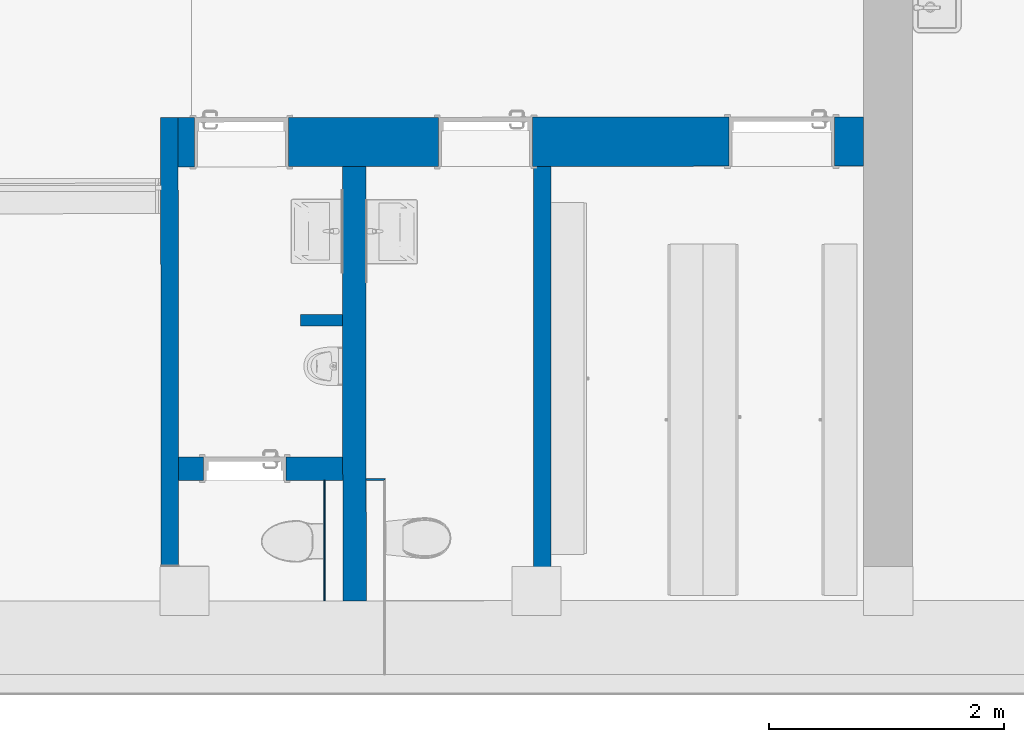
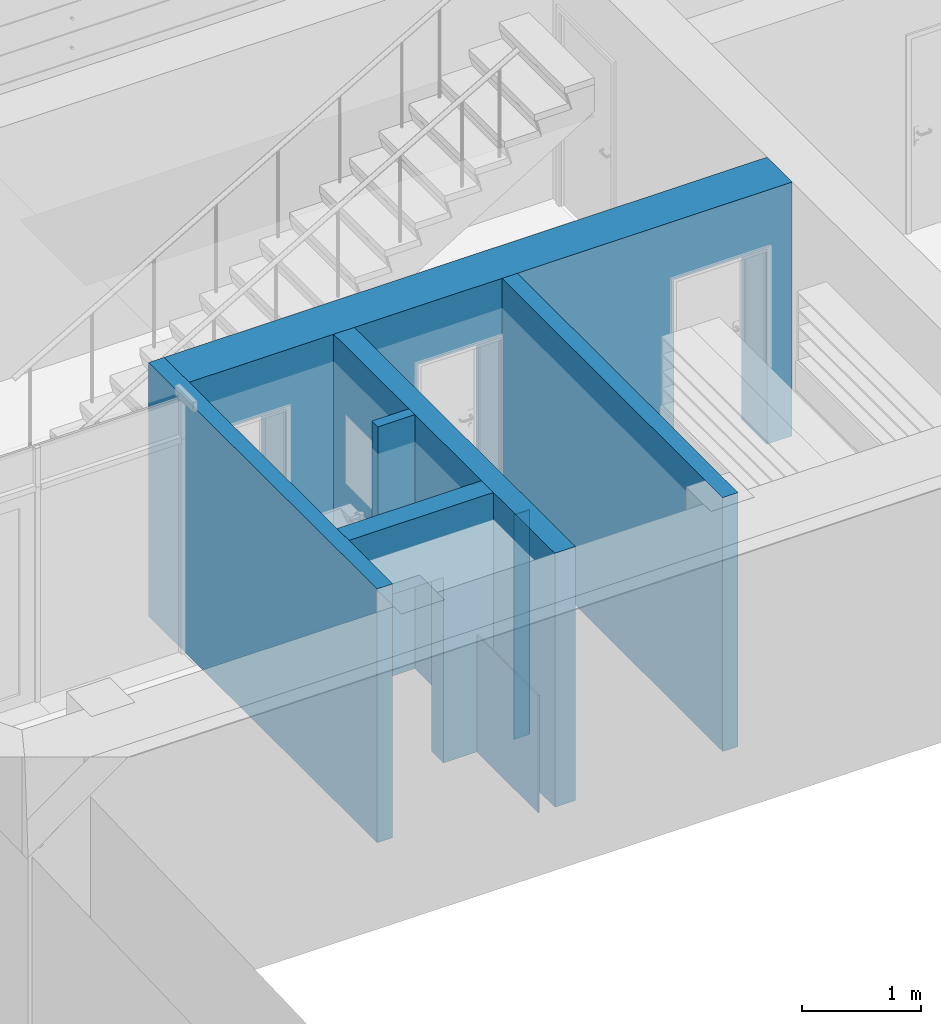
# One storey, part 2 of 127: 8 walls, 4 openings.
"""IFC2X3 building model written with IfcOpenShell, lengths in millimetres."""

import ifcopenshell
import ifcopenshell.guid

model = None  # the IFC model being written
_history = None  # IfcOwnerHistory: only IFC2X3 demands one
_inside = {}  # id of a spatial element -> (the spatial element, [elements in it])
_under = {}  # id of a project, library or spatial element -> (it, [spatial elements below it])
_declared = {}  # id of a project -> (the project, [libraries it declares])
_typed = {}  # id of a type object -> (the type object, [elements of that type])
_made_of = {}  # id of a material, layer set ... -> (it, [elements and type objects made of it])


def new_model(schema):
    """Start an empty IFC model of exactly this schema.

    Asked for "IFC4X3", IfcOpenShell would pick the latest addendum, in which some entities
    have other attributes; the version numbers below select the first issue.
    IFC2X3 requires an IfcOwnerHistory on every rooted entity: one is made here for all.
    """
    global model, _history
    if schema == "IFC4X3":
        model = ifcopenshell.file(schema_version=(4, 3, 0, 0))
    else:
        model = ifcopenshell.file(schema=schema)
    _inside.clear()
    _under.clear()
    _declared.clear()
    _typed.clear()
    _made_of.clear()
    _history = None
    if model.schema == "IFC2X3":
        org = make("IfcOrganization", Name="unknown")
        user = make(
            "IfcPersonAndOrganization",
            ThePerson=make("IfcPerson", FamilyName="unknown"),
            TheOrganization=org,
        )
        app = make(
            "IfcApplication",
            ApplicationDeveloper=org,
            Version="unknown",
            ApplicationFullName="unknown",
            ApplicationIdentifier="unknown",
        )
        _history = make(
            "IfcOwnerHistory",
            OwningUser=user,
            OwningApplication=app,
            ChangeAction="ADDED",
            CreationDate=0,
        )
    return model


def make(cls, **values):
    """One entity of the class cls with the attributes given. An attribute that is None is left unset."""
    return model.create_entity(
        cls, **{name: value for name, value in values.items() if value is not None}
    )


def entity(cls, *values):
    """Any entity or typed value of the class cls, its attributes in the order of the schema. None: left unset."""
    e = model.create_entity(cls)
    for i, value in enumerate(values):
        if value is not None:
            e[i] = value
    return e


def rooted(cls, **values):
    """An entity with a GlobalId (a new one), such as an element, a storey or a relation."""
    return make(cls, GlobalId=ifcopenshell.guid.new(), OwnerHistory=_history, **values)


def si_unit(unit_type, name, prefix=None):
    """IfcSIUnit, for example si_unit("LENGTHUNIT", "METRE", prefix="MILLI")."""
    return make("IfcSIUnit", UnitType=unit_type, Prefix=prefix, Name=name)


def converted_unit(unit_type, name, factor, base, dimensions=None, offset=None):
    """IfcConversionBasedUnit, such as the inch: factor (a typed value) times the base unit."""
    return make(
        "IfcConversionBasedUnit"
        if offset is None
        else "IfcConversionBasedUnitWithOffset",
        ConversionOffset=offset,
        Dimensions=None
        if dimensions is None
        else entity("IfcDimensionalExponents", *dimensions),
        UnitType=unit_type,
        Name=name,
        ConversionFactor=make(
            "IfcMeasureWithUnit", ValueComponent=factor, UnitComponent=base
        ),
    )


def derived_unit(unit_type, elements):
    """IfcDerivedUnit: a product of units, each with its exponent."""
    return make(
        "IfcDerivedUnit",
        Elements=[
            make("IfcDerivedUnitElement", Unit=unit, Exponent=power)
            for unit, power in elements
        ],
        UnitType=unit_type,
    )


def money_unit(currency):
    """IfcMonetaryUnit."""
    return make("IfcMonetaryUnit", Currency=currency)


def assignment(units):
    """IfcUnitAssignment: the units of a project."""
    return None if units is None else make("IfcUnitAssignment", Units=units)


def point(xyz):
    """IfcCartesianPoint."""
    return None if xyz is None else make("IfcCartesianPoint", Coordinates=xyz)


def direction(xyz):
    """IfcDirection."""
    return None if xyz is None else make("IfcDirection", DirectionRatios=xyz)


def frame(location, z_axis=None, x_axis=None):
    """IfcAxis2Placement3D, a coordinate frame: its origin and axes. An axis left out is left unset."""
    return make(
        "IfcAxis2Placement3D",
        Location=point(location),
        Axis=direction(z_axis),
        RefDirection=direction(x_axis),
    )


def frame_2d(location, x_axis=None):
    """IfcAxis2Placement2D, a coordinate frame in the plane: its origin and x axis."""
    return make(
        "IfcAxis2Placement2D", Location=point(location), RefDirection=direction(x_axis)
    )


def origin_with_axes():
    """The frame at (0, 0, 0) with the z axis (0, 0, 1) and the x axis (1, 0, 0) written out."""
    return frame((0.0, 0.0, 0.0), z_axis=(0.0, 0.0, 1.0), x_axis=(1.0, 0.0, 0.0))


def origin_2d_with_axis():
    """The frame at (0, 0) in the plane with the x axis (1, 0) written out."""
    return frame_2d((0.0, 0.0), x_axis=(1.0, 0.0))


def place(relative_to, where):
    """IfcLocalPlacement: puts the frame where relative to a parent placement (None: the world)."""
    return make(
        "IfcLocalPlacement", PlacementRelTo=relative_to, RelativePlacement=where
    )


def context(
    kind, dimensions, precision=None, world=None, true_north=None, identifier=None
):
    """IfcGeometricRepresentationContext, for example the 3D "Model" context."""
    return make(
        "IfcGeometricRepresentationContext",
        ContextIdentifier=identifier,
        ContextType=kind,
        CoordinateSpaceDimension=dimensions,
        Precision=precision,
        WorldCoordinateSystem=world,
        TrueNorth=true_north,
    )


def subcontext(parent, identifier, kind, view, scale=None):
    """IfcGeometricRepresentationSubContext, for example "Body" below "Model"."""
    return make(
        "IfcGeometricRepresentationSubContext",
        ContextIdentifier=identifier,
        ContextType=kind,
        ParentContext=parent,
        TargetScale=scale,
        TargetView=view,
    )


def project(units=None, contexts=None):
    """IfcProject with its units and contexts."""
    return rooted(
        "IfcProject",
        Name="project",
        RepresentationContexts=contexts,
        UnitsInContext=assignment(units),
    )


def spatial(cls, under=None, at=None, **own):
    """A site, building, storey or space (cls), placed at a placement, below another one or the project."""
    s = rooted(cls, ObjectPlacement=at, **own)
    if under is not None:
        _under.setdefault(under.id(), (under, []))[1].append(s)
    return s


def polyline(points):
    """IfcPolyline through the points."""
    return make("IfcPolyline", Points=[point(p) for p in points])


def profile(cls, at=None, kind="AREA", **sizes):
    """A parametric profile (cls). Its sizes go by their IFC names, for example OverallWidth=200.0."""
    return make(cls, ProfileType=kind, Position=at, **sizes)


def rectangle(**sizes):
    """IfcRectangleProfileDef."""
    return profile("IfcRectangleProfileDef", **sizes)


def outline(outer, holes=None, kind="AREA"):
    """IfcArbitraryClosedProfileDef: a profile drawn as a closed curve; with holes, ...WithVoids."""
    if holes is None:
        return make("IfcArbitraryClosedProfileDef", ProfileType=kind, OuterCurve=outer)
    return make(
        "IfcArbitraryProfileDefWithVoids",
        ProfileType=kind,
        OuterCurve=outer,
        InnerCurves=holes,
    )


def extrude(swept, where, along, depth):
    """IfcExtrudedAreaSolid: the profile swept, set in the frame where, extruded along a direction by depth."""
    return make(
        "IfcExtrudedAreaSolid",
        SweptArea=swept,
        Position=where,
        ExtrudedDirection=direction(along),
        Depth=depth,
    )


def shape(context_of_items, identifier, shape_type, items):
    """IfcShapeRepresentation: the items that make up one representation, for example the "Body"."""
    return make(
        "IfcShapeRepresentation",
        ContextOfItems=context_of_items,
        RepresentationIdentifier=identifier,
        RepresentationType=shape_type,
        Items=items,
    )


def material(Name=None, Category=None):
    """IfcMaterial."""
    return make("IfcMaterial", Name=Name, Category=Category)


def layer(
    of_material, thickness, ventilated=None, Name=None, Category=None, Priority=None
):
    """IfcMaterialLayer: one layer of a wall or slab, of a material (None: an air gap)."""
    return make(
        "IfcMaterialLayer",
        Material=of_material,
        LayerThickness=thickness,
        IsVentilated=ventilated,
        Name=Name,
        Category=Category,
        Priority=Priority,
    )


def layer_set(layers, Name=None):
    """IfcMaterialLayerSet."""
    return make("IfcMaterialLayerSet", MaterialLayers=layers, LayerSetName=Name)


def layer_usage(for_layer_set, set_direction, sense, offset, extent=None):
    """IfcMaterialLayerSetUsage: how a layer set lies in its element."""
    return make(
        "IfcMaterialLayerSetUsage",
        ForLayerSet=for_layer_set,
        LayerSetDirection=set_direction,
        DirectionSense=sense,
        OffsetFromReferenceLine=offset,
        ReferenceExtent=extent,
    )


def made_of(thing, what):
    """Note that an element or type object is made of a material, layer set ...; save() writes the relation."""
    if what is not None:
        _made_of.setdefault(what.id(), (what, []))[1].append(thing)
    return thing


def type_object(cls, material=None, **own):
    """A type object (cls), such as IfcWallType, which elements share."""
    return made_of(rooted(cls, **own), material)


def element(
    cls,
    number,
    at=None,
    inside=None,
    cuts=None,
    type_object=None,
    material=None,
    context=None,
    identifier="Body",
    shape_type=None,
    held_by="IfcProductDefinitionShape",
    body=None,
    shapes=None,
    **own,
):
    """One element of the class cls, such as IfcWall. Its Tag is "e" and its number.

    at: its placement. inside: the storey or other place that contains it. cuts: it is an
    opening in that element (IfcRelVoidsElement). A single representation is given by context,
    identifier, shape_type and body (its items); several are given by shapes. held_by: the class
    of the entity that holds the representations. save() writes the other relations.
    """
    e = rooted(cls, Tag="e%d" % number, ObjectPlacement=at, **own)
    if body is not None:
        shapes = [shape(context, identifier, shape_type, body)]
    if shapes is not None:
        e.Representation = make(held_by, Representations=shapes)
    if inside is not None:
        _inside.setdefault(inside.id(), (inside, []))[1].append(e)
    if cuts is not None:
        rooted(
            "IfcRelVoidsElement", RelatingBuildingElement=cuts, RelatedOpeningElement=e
        )
    if type_object is not None:
        _typed.setdefault(type_object.id(), (type_object, []))[1].append(e)
    return made_of(e, material)


def aggregate(whole, parts):
    """IfcRelAggregates: a whole, such as a stair, and the parts it consists of."""
    return rooted("IfcRelAggregates", RelatingObject=whole, RelatedObjects=parts)


def save(model, path):
    """Write the relations noted so far, then the file.

    IfcRelAggregates (storeys below a building ...), IfcRelContainedInSpatialStructure (elements
    in a storey), IfcRelDefinesByType, IfcRelAssociatesMaterial and IfcRelDeclares: one each for
    every whole, place, type object, material and project.
    """
    for whole, parts in _under.values():
        aggregate(whole, parts)
    for where, things in _inside.values():
        rooted(
            "IfcRelContainedInSpatialStructure",
            RelatedElements=things,
            RelatingStructure=where,
        )
    for kind, things in _typed.values():
        rooted("IfcRelDefinesByType", RelatedObjects=things, RelatingType=kind)
    for what, things in _made_of.values():
        rooted("IfcRelAssociatesMaterial", RelatedObjects=things, RelatingMaterial=what)
    for by, libraries in _declared.values():
        rooted("IfcRelDeclares", RelatingContext=by, RelatedDefinitions=libraries)
    model.write(path)


model = new_model("IFC2X3")

# Units and contexts
model_context = context("Model", 3, precision=1e-05, world=origin_with_axes(), true_north=direction((0.0, 1.0)))
body_context = subcontext(model_context, "Body", "Model", "MODEL_VIEW")
ifc_project = project(units=[si_unit("LENGTHUNIT", "METRE", prefix="MILLI"), si_unit("AREAUNIT", "SQUARE_METRE"), si_unit("VOLUMEUNIT", "CUBIC_METRE"), converted_unit("PLANEANGLEUNIT", "DEGREE", entity("IfcPlaneAngleMeasure", 0.0174532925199), si_unit("PLANEANGLEUNIT", "RADIAN"), dimensions=[0, 0, 0, 0, 0, 0, 0]), si_unit("SOLIDANGLEUNIT", "STERADIAN"), money_unit("EUR"), converted_unit("TIMEUNIT", "Year", entity("IfcTimeMeasure", 31556926.0), si_unit("TIMEUNIT", "SECOND"), dimensions=[0, 0, 1, 0, 0, 0, 0]), si_unit("MASSUNIT", "GRAM", prefix="KILO"), si_unit("THERMODYNAMICTEMPERATUREUNIT", "DEGREE_CELSIUS"), si_unit("LUMINOUSINTENSITYUNIT", "LUMEN"), si_unit("ENERGYUNIT", "JOULE", prefix="MEGA"), derived_unit("THERMALCONDUCTANCEUNIT", [(si_unit("POWERUNIT", "WATT"), 1), (si_unit("LENGTHUNIT", "METRE"), -1), (si_unit("THERMODYNAMICTEMPERATUREUNIT", "KELVIN"), -1)]), derived_unit("SPECIFICHEATCAPACITYUNIT", [(si_unit("ENERGYUNIT", "JOULE"), 1), (si_unit("MASSUNIT", "GRAM", prefix="KILO"), -1), (si_unit("THERMODYNAMICTEMPERATUREUNIT", "KELVIN"), -1)]), derived_unit("MASSDENSITYUNIT", [(si_unit("MASSUNIT", "GRAM", prefix="KILO"), 1), (si_unit("VOLUMEUNIT", "CUBIC_METRE"), -1)])], contexts=[model_context])

# Site, building, storey
site_placement = place(None, origin_with_axes())
site = spatial("IfcSite", under=ifc_project, at=site_placement, Name="Site", CompositionType="ELEMENT")
building_placement = place(site_placement, origin_with_axes())
building = spatial("IfcBuilding", under=site, at=building_placement, Name="Building", CompositionType="ELEMENT")
storey_placement = place(building_placement, origin_with_axes())
storey = spatial("IfcBuildingStorey", under=building, at=storey_placement, Name="1 KORRUS", CompositionType="ELEMENT", Elevation=0.0)

# Wall, openings
ifc_material_1 = material(Name="Kivi -Ol.Olev Konstruktsioon")
ifc_layer_1 = layer(ifc_material_1, 420.0, ventilated="UNKNOWN")
ifc_layer_set_1 = layer_set([ifc_layer_1], Name="ol.olev ss 420")
ifc_layer_usage_1 = layer_usage(ifc_layer_set_1, "AXIS2", "NEGATIVE", 0.0)
wall_type_1 = type_object("IfcWallType", Name="SW - 022", PredefinedType="NOTDEFINED")
wall_1_placement = place(storey_placement, frame((24740.1351167, 39007.1472728, 0.0), z_axis=(0.0, 0.0, 1.0), x_axis=(0.999999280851, 0.00119929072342, 0.0)))
wall_1 = element("IfcWallStandardCase", 1, at=wall_1_placement, inside=storey, type_object=wall_type_1, material=ifc_layer_usage_1, Name="ol.olev ss 420", context=body_context, shape_type="SweptSolid", body=[
    extrude(outline(polyline([(0.0, -420.0), (5992.92419563, -420.0), (5992.92419563, 0.0), (0.0, 0.0), (0.0, -420.0)])), origin_with_axes(), (0.0, 0.0, 1.0), 2600.0),
])
opening_1_placement = place(wall_1_placement, frame((2770.86909754, -9.09494701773e-10, 0.0), z_axis=(0.0, 0.0, 1.0), x_axis=(1.0, 0.0, 0.0)))
element("IfcOpeningElement", 2, at=opening_1_placement, cuts=wall_1, Name="Siseuks * Door 22", context=body_context, shape_type="SweptSolid", body=[
    extrude(rectangle(XDim=800.0, YDim=2000.0, at=origin_2d_with_axis()), frame((-2.27373675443e-10, -420.0, 1000.0), z_axis=(0.0, -1.0, 0.0), x_axis=(-1.0, 0.0, 0.0)), (0.0, 0.0, -1.0), 1260.0),
    extrude(rectangle(XDim=874.0, YDim=2037.0, at=origin_2d_with_axis()), frame((0.0, -420.0, 1018.5), z_axis=(0.0, -1.0, 0.0), x_axis=(-1.0, 0.0, 0.0)), (0.0, 0.0, 1.0), 420.0),
    extrude(rectangle(XDim=874.0, YDim=2037.0, at=origin_2d_with_axis()), frame((0.0, 0.0, 1018.5), z_axis=(0.0, 1.0, 0.0), x_axis=(-1.0, 0.0, 0.0)), (0.0, 0.0, 1.0), 420.0),
])
opening_2_placement = place(wall_1_placement, frame((689.496282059, -9.09494701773e-10, 0.0), z_axis=(0.0, 0.0, 1.0), x_axis=(1.0, 0.0, 0.0)))
element("IfcOpeningElement", 3, at=opening_2_placement, cuts=wall_1, Name="Siseuks * Door 22", context=body_context, shape_type="SweptSolid", body=[
    extrude(rectangle(XDim=800.0, YDim=2000.0, at=origin_2d_with_axis()), frame((-2.27373675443e-10, -420.0, 1000.0), z_axis=(0.0, 1.0, 0.0), x_axis=(1.0, 0.0, 0.0)), (0.0, 0.0, 1.0), 1260.0),
    extrude(rectangle(XDim=874.0, YDim=2037.0, at=origin_2d_with_axis()), frame((0.0, -420.000000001, 1018.5), z_axis=(0.0, 1.0, 0.0), x_axis=(1.0, 0.0, 0.0)), (0.0, 0.0, -1.0), 420.0),
    extrude(rectangle(XDim=874.0, YDim=2037.0, at=origin_2d_with_axis()), frame((0.0, 0.0, 1018.5), z_axis=(0.0, -1.0, 0.0), x_axis=(1.0, 0.0, 0.0)), (0.0, 0.0, -1.0), 420.0),
])
opening_3_placement = place(wall_1_placement, frame((5296.93935886, -9.09494701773e-10, 0.0), z_axis=(0.0, 0.0, 1.0), x_axis=(1.0, 0.0, 0.0)))
element("IfcOpeningElement", 4, at=opening_3_placement, cuts=wall_1, Name="Siseuks * Door 22", context=body_context, shape_type="SweptSolid", body=[
    extrude(rectangle(XDim=900.0, YDim=2000.0, at=origin_2d_with_axis()), frame((-2.27373675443e-10, -419.999999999, 1000.0), z_axis=(0.0, -1.0, 0.0), x_axis=(-1.0, 0.0, 0.0)), (0.0, 0.0, -1.0), 1260.0),
    extrude(rectangle(XDim=974.0, YDim=2037.0, at=origin_2d_with_axis()), frame((-1.13686837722e-10, -419.999999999, 1018.5), z_axis=(0.0, -1.0, 0.0), x_axis=(-1.0, 0.0, 0.0)), (0.0, 0.0, 1.0), 420.0),
    extrude(rectangle(XDim=974.0, YDim=2037.0, at=origin_2d_with_axis()), frame((-1.13686837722e-10, 0.0, 1018.5), z_axis=(0.0, 1.0, 0.0), x_axis=(-1.0, 0.0, 0.0)), (0.0, 0.0, 1.0), 420.0),
])

# Wall, opening
ifc_layer_2 = layer(ifc_material_1, 200.0, ventilated="UNKNOWN")
ifc_layer_set_2 = layer_set([ifc_layer_2], Name="ol.olev ss 200")
ifc_layer_usage_2 = layer_usage(ifc_layer_set_2, "AXIS2", "POSITIVE", 0.0)
wall_type_2 = type_object("IfcWallType", Name="SW - 036", PredefinedType="NOTDEFINED")
wall_2_placement = place(storey_placement, frame((24743.8891133, 35914.8641392, 0.0), z_axis=(0.0, 0.0, 1.0), x_axis=(1.0, 0.0, 0.0)))
wall_2 = element("IfcWallStandardCase", 5, at=wall_2_placement, inside=storey, type_object=wall_type_2, material=ifc_layer_usage_2, Name="ol.olev ss 200", context=body_context, shape_type="SweptSolid", body=[
    extrude(outline(polyline([(150.00011126, 0.0), (1549.77627619, 0.0), (1549.53273874, 200.0), (149.756573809, 200.0), (150.00011126, 0.0)])), origin_with_axes(), (0.0, 0.0, 1.0), 2600.0),
])
opening_4_placement = place(wall_2_placement, frame((713.987273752, 0.0, 0.0), z_axis=(0.0, 0.0, 1.0), x_axis=(1.0, 0.0, 0.0)))
element("IfcOpeningElement", 6, at=opening_4_placement, cuts=wall_2, Name="Siseuks * Door 22", context=body_context, shape_type="SweptSolid", body=[
    extrude(rectangle(XDim=700.0, YDim=1900.0, at=origin_2d_with_axis()), frame((0.0, -200.0, 950.0), z_axis=(0.0, -1.0, 0.0), x_axis=(-1.0, 0.0, 0.0)), (0.0, 0.0, -1.0), 600.0),
    extrude(rectangle(XDim=774.0, YDim=1937.0, at=origin_2d_with_axis()), frame((0.0, 0.0, 968.5), z_axis=(0.0, -1.0, 0.0), x_axis=(-1.0, 0.0, 0.0)), (0.0, 0.0, 1.0), 200.0),
    extrude(rectangle(XDim=774.0, YDim=1937.0, at=origin_2d_with_axis()), frame((0.0, 200.0, 968.5), z_axis=(0.0, 1.0, 0.0), x_axis=(-1.0, 0.0, 0.0)), (0.0, 0.0, 1.0), 200.0),
])

# Walls
ifc_layer_usage_3 = layer_usage(ifc_layer_set_2, "AXIS2", "POSITIVE", 0.0)
wall_3_placement = place(storey_placement, frame((26289.8976925, 39009.00589, 0.0), z_axis=(0.0, 0.0, 1.0), x_axis=(0.001217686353, -0.99999925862, 0.0)))
element("IfcWallStandardCase", 7, at=wall_3_placement, inside=storey, type_object=wall_type_2, material=ifc_layer_usage_3, Name="ol.olev ss 200", context=body_context, shape_type="SweptSolid", body=[
    extrude(outline(polyline([(420.000000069, 1.13686837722e-10), (4121.53349016, 0.0), (4121.76340889, 200.0), (420.003679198, 200.0), (420.000000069, 1.13686837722e-10)])), origin_with_axes(), (0.0, 0.0, 1.0), 2600.0),
])
ifc_layer_3 = layer(ifc_material_1, 150.0, ventilated="UNKNOWN")
ifc_layer_set_3 = layer_set([ifc_layer_3], Name="ol.olev ss 150")
ifc_layer_usage_4 = layer_usage(ifc_layer_set_3, "AXIS2", "POSITIVE", 0.0)
wall_4_placement = place(storey_placement, frame((24740.1236796, 39007.1472588, 0.0), z_axis=(0.0, 0.0, 1.0), x_axis=(0.00121768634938, -0.99999925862, 0.0)))
element("IfcWallStandardCase", 8, at=wall_4_placement, inside=storey, type_object=wall_type_2, material=ifc_layer_usage_4, Name="ol.olev ss 150", context=body_context, shape_type="SweptSolid", body=[
    extrude(outline(polyline([(0.0, 0.0), (3825.5141261, 1.13686837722e-10), (3825.5141261, 150.0), (-9.09494701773e-10, 150.0), (0.0, 0.0)])), origin_with_axes(), (0.0, 0.0, 1.0), 2600.0),
])
ifc_layer_usage_5 = layer_usage(ifc_layer_set_3, "AXIS2", "POSITIVE", 0.0)
wall_5_placement = place(storey_placement, frame((27920.4892316, 38590.9503687, 0.0), z_axis=(0.0, 0.0, 1.0), x_axis=(0.0, -1.0, 0.0)))
element("IfcWallStandardCase", 9, at=wall_5_placement, inside=storey, type_object=wall_type_2, material=ifc_layer_usage_5, Name="ol.olev ss 150", context=body_context, shape_type="SweptSolid", body=[
    extrude(outline(polyline([(0.0, 0.0), (3703.34829473, 0.0), (3703.34829473, 150.0), (0.0, 150.0), (0.0, 0.0)])), origin_with_axes(), (0.0, 0.0, 1.0), 2600.0),
])
ifc_layer_4 = layer(ifc_material_1, 100.0, ventilated="UNKNOWN")
ifc_layer_set_4 = layer_set([ifc_layer_4], Name="ol.olev ss 100")
ifc_layer_usage_6 = layer_usage(ifc_layer_set_4, "AXIS2", "POSITIVE", -100.0)
wall_type_3 = type_object("IfcWallType", Name="SW - 037", PredefinedType="NOTDEFINED")
wall_6_placement = place(storey_placement, frame((25933.1348205, 37330.3163075, 0.0), z_axis=(0.0, 0.0, 1.0), x_axis=(1.0, 0.0, 0.0)))
element("IfcWallStandardCase", 10, at=wall_6_placement, inside=storey, type_object=wall_type_3, material=ifc_layer_usage_6, Name="ol.olev ss 100", context=body_context, shape_type="SweptSolid", body=[
    extrude(outline(polyline([(0.0, -100.0), (358.928759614, -100.0), (358.806990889, 0.0), (0.0, 0.0), (0.0, -100.0)])), origin_with_axes(), (0.0, 0.0, 1.0), 2600.0),
])
ifc_material_2 = material(Name="Kipsplaat")
ifc_layer_5 = layer(ifc_material_2, 13.0, ventilated="UNKNOWN")
ifc_layer_set_5 = layer_set([ifc_layer_5], Name="Kipsplaat 13")
ifc_layer_usage_7 = layer_usage(ifc_layer_set_5, "AXIS2", "NEGATIVE", 0.0)
wall_type_4 = type_object("IfcWallType", Name="loputuskasti raam", PredefinedType="NOTDEFINED")
wall_7_placement = place(storey_placement, frame((26656.5592221, 35914.8641392, 0.0), z_axis=(0.0, 0.0, 1.0), x_axis=(-1.0, 0.0, 0.0)))
element("IfcWallStandardCase", 11, at=wall_7_placement, inside=storey, type_object=wall_type_4, material=ifc_layer_usage_7, Name="Kipsplaat", context=body_context, shape_type="SweptSolid", body=[
    extrude(outline(polyline([(0.0, -12.9999999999), (162.909514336, -12.9999999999), (162.893684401, 0.0), (13.0, 0.0), (0.0, -12.9999999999)])), origin_with_axes(), (0.0, 0.0, 1.0), 2300.0),
])
ifc_layer_usage_8 = layer_usage(ifc_layer_set_5, "AXIS2", "POSITIVE", 0.0)
wall_8_placement = place(storey_placement, frame((26131.74903, 35914.8641392, 0.0), z_axis=(0.0, 0.0, 1.0), x_axis=(0.0, -1.0, 0.0)))
element("IfcWallStandardCase", 12, at=wall_8_placement, inside=storey, type_object=wall_type_4, material=ifc_layer_usage_8, Name="Kipsplaat", context=body_context, shape_type="SweptSolid", body=[
    extrude(outline(polyline([(0.0, 0.0), (1027.39979436, 0.0), (1027.39890914, 13.0), (0.0, 13.0), (0.0, 0.0)])), origin_with_axes(), (0.0, 0.0, 1.0), 1200.0),
])

save(model, "model.ifc")
